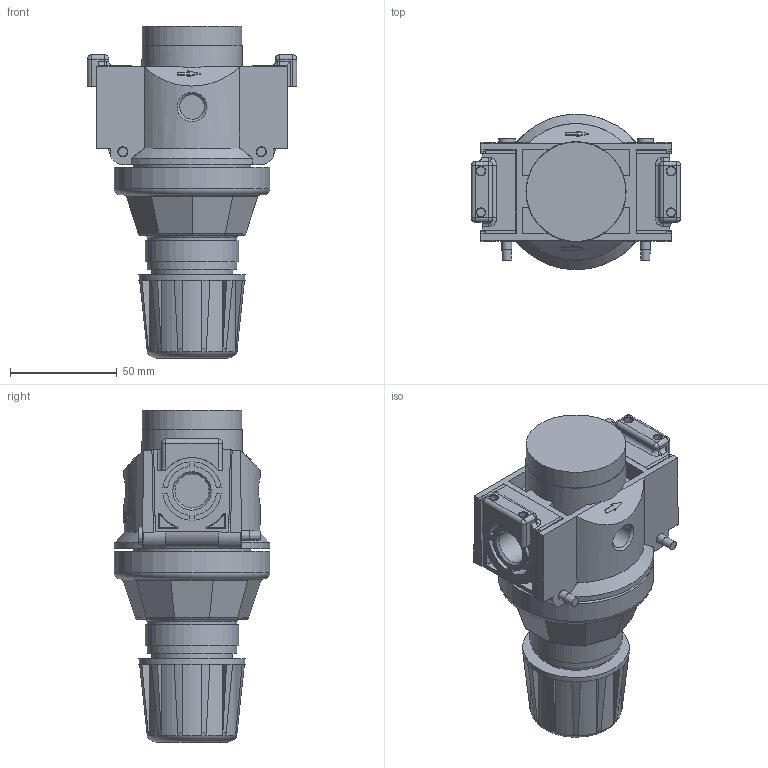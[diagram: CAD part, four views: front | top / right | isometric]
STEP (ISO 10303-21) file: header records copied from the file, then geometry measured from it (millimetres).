
FILE_DESCRIPTION((''),'2;1');
FILE_NAME('F:\AirCom-Produktdokumentation\Druckregler\R20\CAD\CAD AirCom\3D\B-R20-03x.stp','2008-11-12T11:41:07',('Frank Schroers'),(''),'Autodesk Inventor 2008','Autodesk Inventor 2008','');
FILE_SCHEMA(('AUTOMOTIVE_DESIGN { 1 0 10303 214 1 1 1 1 }'));
Length unit declared in the file: millimetre
Products named in the file (4): B-R20-03x; B-R20-00x; B-IK20A-Bolzen; B-IK20X
Assembly tree (5 placements, depth 2):
  B-R20-03x
    B-R20-00x
    B-IK20A-Bolzen  x2
    B-IK20X  x2
Bounding box: 98.21 x 73 x 155.8 mm (x, y, z)
Volume: 403093 mm3; surface area: 71342.1 mm2
Topology: 5 solids, 5 shells, 677 faces, 1645 edges, 1001 vertices
Faces by surface type: plane 323, cylinder 213, bspline 79, cone 28, torus 26, sphere 8
Full cylindrical faces by diameter (mm): 4 x4, 4.6 x2, 4.7 x4, 4.85 x2, 5.9 x2, 7.8 x2, 11.6 x2, 16 x2, 28 x2, 33.2 x2, 38 x1, 42 x2, 43.8 x1, 46.7 x1, 47 x1, 50 x1, 55 x1, 73 x1
Entity records: 24015 total; most frequent: CARTESIAN_POINT 12232, ORIENTED_EDGE 2398, DIRECTION 2391, EDGE_CURVE 1199, AXIS2_PLACEMENT_3D 872, VERTEX_POINT 764, VECTOR 647, LINE 647
